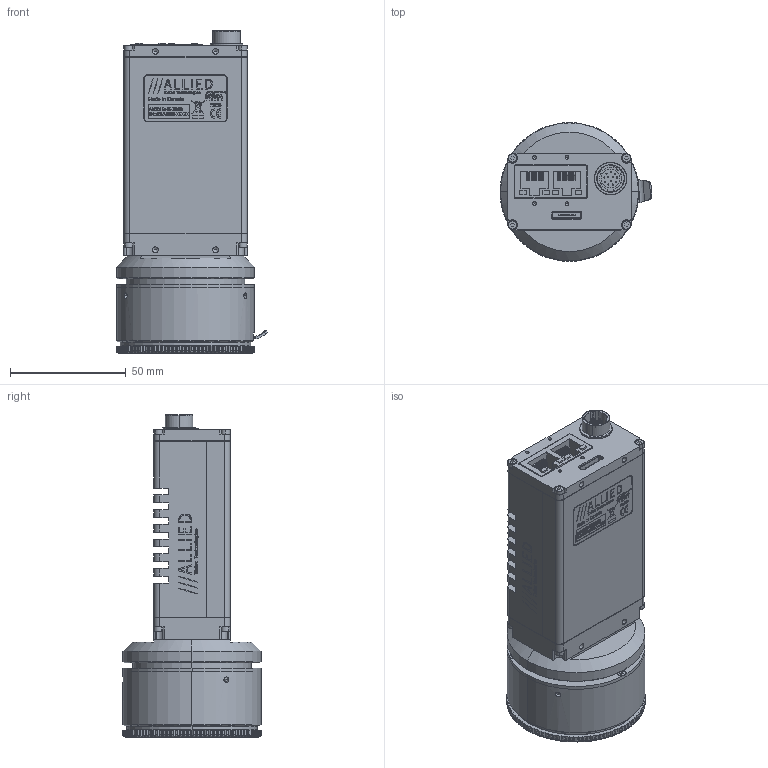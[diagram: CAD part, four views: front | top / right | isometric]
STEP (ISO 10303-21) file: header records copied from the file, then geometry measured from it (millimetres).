
FILE_DESCRIPTION (( 'STEP AP214' ), '1' );
FILE_NAME ('GX3300 FMOUNT.STEP', '2013-08-07T19:35:47', ( '' ), ( '' ), 'SwSTEP 2.0', 'SolidWorks 2013', '' );
FILE_SCHEMA (( 'AUTOMOTIVE_DESIGN' ));
Length unit declared in the file: millimetre
Products named in the file (34): 200115A-GX POWER PCBA; 140035-NIKON 54341 SCREW; 260048-HIROSE 3260-8S3; 140033-SCREW SET M3x3 SS; 140061-SCREW SKT CAP M2x8 SS; 140035-NIKON 54341 TENSION RING; 140035-NIKON 54341 SPRING; GX3300 FMOUNT; 110112A-TEFLON INSERT 0.125IN DIA 0.57IN LENGTH; 740116B-GX3300 THERMAL LABEL PRINT; 140035-NIKON 54341 MAIN RING; 100175A - GX3300 FRONT ASSY FMOUNT; 110113A-FMOUNT ADAPTER PLATE; 110111A-GX FMOUNT BASE; 140068-SCREW FLAT HEAD M2x4 SS; 110103A-GX CCD GASKET; 740102B-GX SERIES LABEL; 220177-KODAK KAI-08050-ABA; 100172B - GX BODY ASSY-THERMAL; KAI-08050 WINDOW; 110099B-GX BOTTOM COVER-THERMAL_Finished; KAI-08050 BODY; 140067-SCREW SOCKET CAP FLAT HEAD  M3x6 BLACK; 200114A-GX MAIN PCBA; 260043-HALO HFJ12-1G16ER-L12RL; 110109A-GX FRONT PLATE LF; 110100B-GX TOP COVER-THERMAL_Finished; 100114A-FMOUNT FRONT ASSY_REV B; 100171A - GX BACK ASSY; 110052A-FMOUNT ADAPTER; 260034-HIROSE HR10A-10R-12PB; 140035-NIKON 54341 TAB; 110097A-GX BACK PLATE; 140036 NIKON BF-1A FMOUNT CAP
Assembly tree (51 placements, depth 4):
  GX3300 FMOUNT
    140061-SCREW SKT CAP M2x8 SS  x4
    100172B - GX BODY ASSY-THERMAL
      140061-SCREW SKT CAP M2x8 SS  x4
      200115A-GX POWER PCBA
        260048-HIROSE 3260-8S3
      100171A - GX BACK ASSY
        110097A-GX BACK PLATE
        260034-HIROSE HR10A-10R-12PB
      110100B-GX TOP COVER-THERMAL_Finished
      200114A-GX MAIN PCBA
        260043-HALO HFJ12-1G16ER-L12RL
      110099B-GX BOTTOM COVER-THERMAL_Finished
    740102B-GX SERIES LABEL
    100175A - GX3300 FRONT ASSY FMOUNT
      100114A-FMOUNT FRONT ASSY_REV B
        140068-SCREW FLAT HEAD M2x4 SS  x3
        110113A-FMOUNT ADAPTER PLATE
        140035-NIKON 54341 MAIN RING
        110112A-TEFLON INSERT 0.125IN DIA 0.57IN LENGTH  x3
        140035-NIKON 54341 SPRING
        140035-NIKON 54341 TENSION RING
        140033-SCREW SET M3x3 SS  x3
        140035-NIKON 54341 SCREW  x3
        140036 NIKON BF-1A FMOUNT CAP
        140035-NIKON 54341 TAB
        110052A-FMOUNT ADAPTER
      110109A-GX FRONT PLATE LF
      140067-SCREW SOCKET CAP FLAT HEAD  M3x6 BLACK  x4
      220177-KODAK KAI-08050-ABA
        KAI-08050 BODY
        KAI-08050 WINDOW
      110103A-GX CCD GASKET
      110111A-GX FMOUNT BASE
    740116B-GX3300 THERMAL LABEL PRINT
Bounding box: 65.61 x 59.99 x 139.34 mm (x, y, z)
Volume: 127755.2 mm3; surface area: 105408.3 mm2
Topology: 88 solids, 88 shells, 4711 faces, 12293 edges, 8026 vertices
Faces by surface type: plane 2597, cylinder 975, bspline 945, cone 194
Entity records: 223437 total; most frequent: CARTESIAN_POINT 69337, ORIENTED_EDGE 23024, DIRECTION 18412, EDGE_CURVE 11512, VERTEX_POINT 7616, LINE 7548, VECTOR 7548, AXIS2_PLACEMENT_3D 5432
